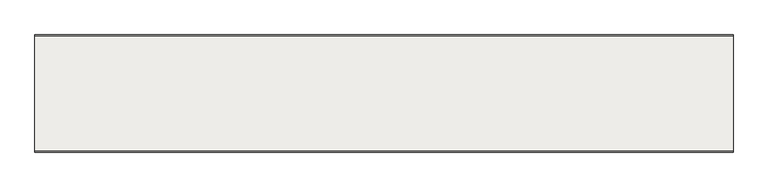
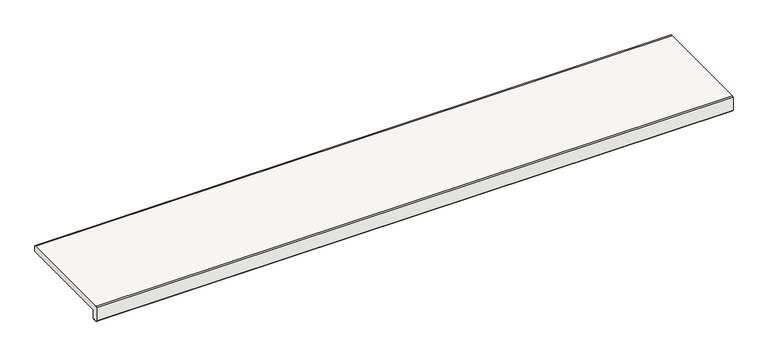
"""IFC4 building model written with IfcOpenShell, lengths in millimetres: slab geometry, ROSA GRES_L62 : Pieza L62_Tresor_Java_Anti-Slip."""

from ifc_helpers import new_model, si_unit, point, frame, frame_2d, origin, place, context, project, spatial, polyline, circle_curve, trimmed, segment, composite_curve, outline, extrude, source, transform, mapped, element, save


def slab_653ebc57(model_context):
    return source(origin(), model_context, "Body", "SweptSolid", [
        extrude(outline(composite_curve([segment(polyline([(12.1001991, -37.0), (9.4054777, -37.0)]), True, "CONTINUOUS"), segment(trimmed(circle_curve(frame_2d((7.4142134, -37.0)), 1.9912643), [point((9.4054777, -37.0))], [point((5.422949, -37.0))], True, "CARTESIAN"), True, "CONTINUOUS"), segment(polyline([(5.422949, -37.0), (2.5, -37.0)]), True, "CONTINUOUS"), segment(trimmed(circle_curve(frame_2d((2.5, -34.5)), 2.5), [point((2.5, -37.0))], [point((0.0, -34.5))], False, "CARTESIAN"), True, "CONTINUOUS"), segment(polyline([(0.0, -34.5), (0.0, -2.5), (2.5, 0.0), (247.5, 0.0), (250.0, -0.0899281), (250.0, -13.9413919), (16.6422322, -13.9413919)]), True, "CONTINUOUS"), segment(trimmed(circle_curve(frame_2d((16.6422322, -16.5836242)), 2.6422322), [point((16.6422322, -13.9413919))], [point((14.0, -16.5836242))], True, "CARTESIAN"), True, "CONTINUOUS"), segment(polyline([(14.0, -16.5836242), (14.0, -35.1001991)]), True, "CONTINUOUS"), segment(trimmed(circle_curve(frame_2d((12.1001991, -35.1001991)), 1.8998009), [point((14.0, -35.1001991))], [point((12.1001991, -37.0))], False, "CARTESIAN"), True, "CONTINUOUS")], self_intersect=False)), frame((0.0, 0.0, 0.0), z_axis=(1.0, 0.0, 0.0), x_axis=(0.0, 1.0, 0.0)), (0.0, 0.0, 1.0), 1490.0),
    ])


if __name__ == "__main__":
    model = new_model("IFC4")
    model_context = context("Model", 3, world=origin())
    ifc_project = project(units=[si_unit("LENGTHUNIT", "METRE", prefix="MILLI")], contexts=[model_context])
    site = spatial("IfcSite", under=ifc_project)
    building = spatial("IfcBuilding", under=site)
    placement = place(None, origin())
    slab_shape = slab_653ebc57(model_context)
    element("IfcSlab", 1, ObjectType="ROSA GRES_L62 : Pieza L62_Tresor_Java_Anti-Slip", at=placement, inside=building, context=model_context, shape_type="MappedRepresentation", body=[
        mapped(slab_shape, transform((0.0, 0.0, 0.0), x_axis=(1.0, 0.0, 0.0), y_axis=(0.0, 1.0, 0.0), z_axis=(0.0, 0.0, 1.0))),
    ])
    save(model, "model.ifc")
